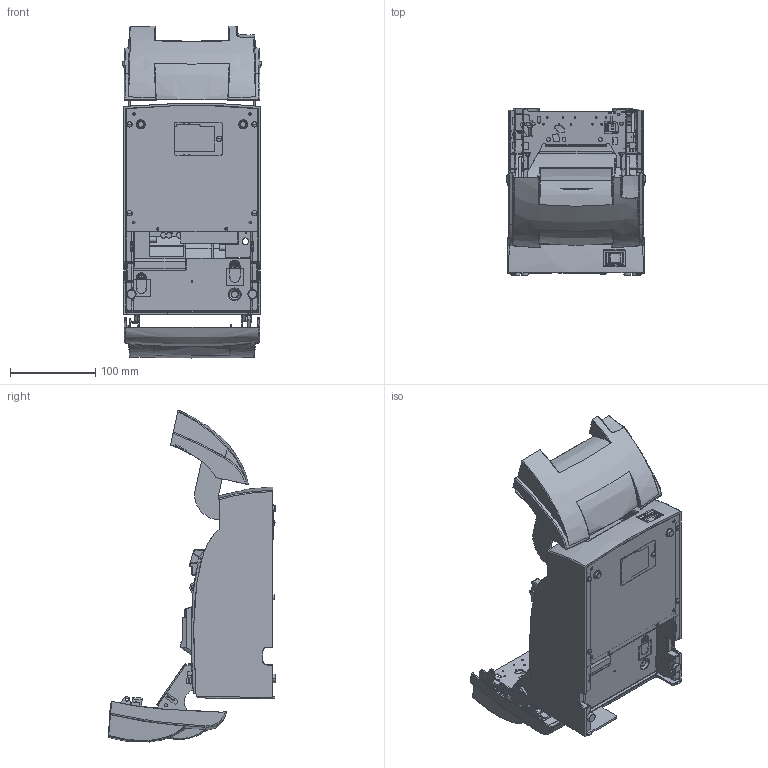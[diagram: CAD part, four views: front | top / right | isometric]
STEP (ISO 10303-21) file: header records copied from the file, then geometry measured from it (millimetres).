
FILE_DESCRIPTION((''),'2;1');
FILE_NAME('TM-U220IID_OPEN','2024-12-26T14:15:25',('5012938'),(''),'CREO PARAMETRIC BY PTC INC, 2022281','CREO PARAMETRIC BY PTC INC, 2022281','');
FILE_SCHEMA(('AUTOMOTIVE_DESIGN { 1 0 10303 214 1 1 1 1 }'));
Products named in the file (1): TM-U220IID_OPEN
Bounding box: 162.5 x 196.48 x 388.81 mm (x, y, z)
Surface area: 592398.2 mm2 (no closed solid volume)
Topology: 0 solids, 78 shells, 4267 faces, 13065 edges, 8600 vertices
Faces by surface type: plane 2176, cylinder 1311, bspline 405, cone 153, extrusion 112, torus 75, sphere 35
Entity records: 186863 total; most frequent: CARTESIAN_POINT 73318, ORIENTED_EDGE 23941, DIRECTION 22039, EDGE_CURVE 13046, VERTEX_POINT 8600, VECTOR 7979, LINE 7867, AXIS2_PLACEMENT_3D 7030
